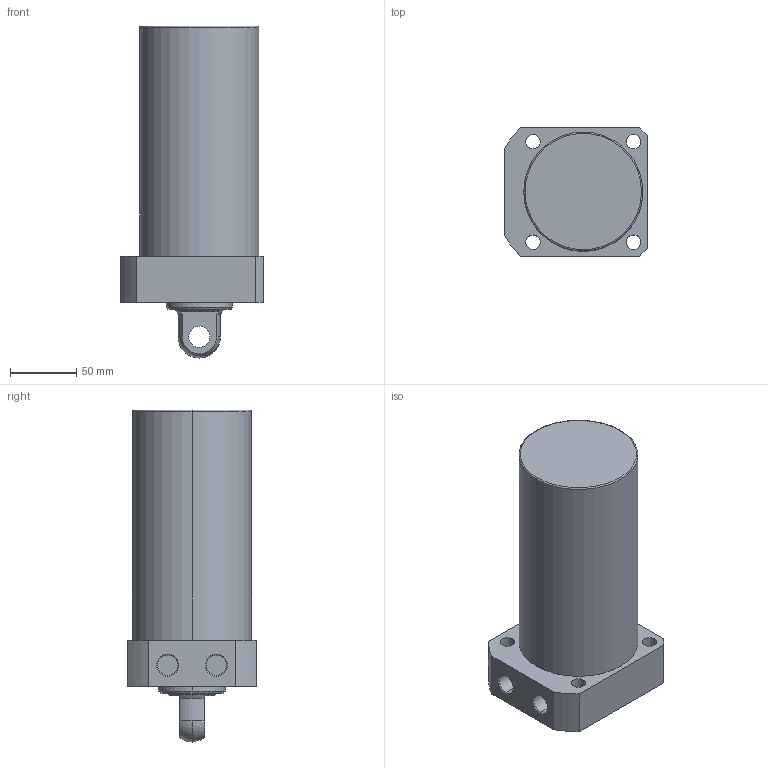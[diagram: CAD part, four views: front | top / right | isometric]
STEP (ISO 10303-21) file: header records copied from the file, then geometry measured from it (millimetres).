
FILE_DESCRIPTION (( 'STEP AP203' ), '1' );
FILE_NAME ('CLLR-090CP-130.STEP', '2019-12-18T06:57:51', ( '' ), ( '' ), 'SwSTEP 2.0', 'SolidWorks 2015', '' );
FILE_SCHEMA (( 'CONFIG_CONTROL_DESIGN' ));
Length unit declared in the file: millimetre
Products named in the file (1): CLLR-090CP-130
Bounding box: 108 x 97 x 251 mm (x, y, z)
Volume: 1471110.5 mm3; surface area: 93263.1 mm2
Topology: 1 solids, 1 shells, 59 faces, 139 edges, 89 vertices
Faces by surface type: cylinder 29, plane 18, cone 8, sphere 2, torus 2
Entity records: 1822 total; most frequent: DIRECTION 331, CARTESIAN_POINT 300, ORIENTED_EDGE 278, EDGE_CURVE 139, AXIS2_PLACEMENT_3D 136, VERTEX_POINT 89, CIRCLE 76, EDGE_LOOP 76
